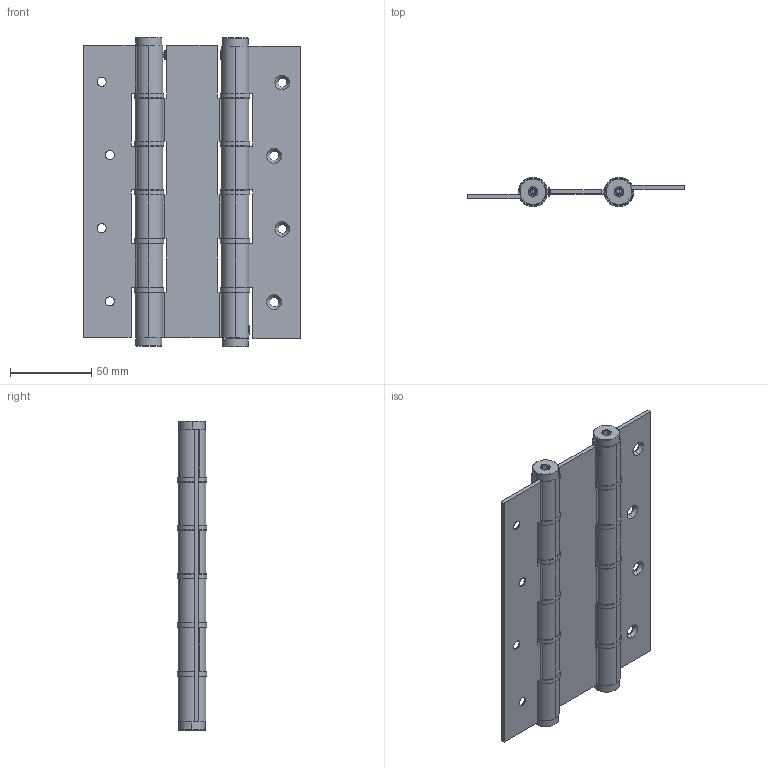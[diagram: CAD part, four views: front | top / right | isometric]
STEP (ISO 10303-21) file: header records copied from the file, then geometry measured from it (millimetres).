
FILE_DESCRIPTION((''),'2;1');
FILE_NAME('158.5914.05,08.stp','2015-07-17T10:01:03',(''),(''),'Mechanical Desktop 2006','Mechanical Desktop 2006',', , ');
FILE_SCHEMA(('CONFIG_CONTROL_DESIGN'));
Length unit declared in the file: millimetre
Products named in the file (8): 158.5914.05.30; 057.028.0.0 55719 TAP FRONTISSA -FORADAT-(1); 057.020.0.2 PASSADOR FRONTISSES 3 X 9.5(1); TEIL4; TEIL5; TEIL3; ~TEIL5; ~~TEIL5
Assembly tree (23 placements, depth 2):
  158.5914.05.30
    057.028.0.0 55719 TAP FRONTISSA -FORADAT-(1)  x4
    057.020.0.2 PASSADOR FRONTISSES 3 X 9.5(1)  x4
    TEIL4  x10
    TEIL5
    TEIL3  x2
    ~TEIL5
    ~~TEIL5
Bounding box: 133 x 18 x 190.5 mm (x, y, z)
Volume: 102361.9 mm3; surface area: 102384.6 mm2
Topology: 19 solids, 27 shells, 706 faces, 1804 edges, 1108 vertices
Faces by surface type: cylinder 368, plane 194, cone 112, sphere 16, torus 16
Entity records: 10347 total; most frequent: CARTESIAN_POINT 2145, DIRECTION 1796, ORIENTED_EDGE 1628, EDGE_CURVE 816, AXIS2_PLACEMENT_3D 694, VERTEX_POINT 521, VECTOR 408, LINE 408
